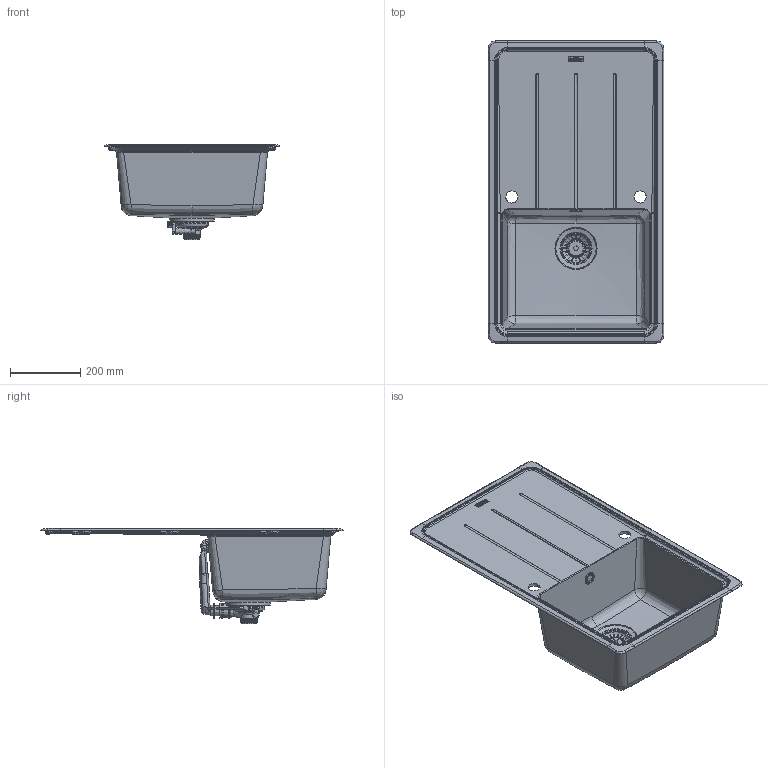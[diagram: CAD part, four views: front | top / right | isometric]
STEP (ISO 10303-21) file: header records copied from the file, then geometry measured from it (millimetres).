
FILE_DESCRIPTION(/* description */ (''),/* implementation_level */ '2;1');
FILE_NAME(/* name */ '3D001_Sinks_Basis_BFG-611-86',/* time_stamp */ '2024-06-26T15:28:29+02:00',/* author */ (''),/* organization */ (''),/* preprocessor_version */ 'ST-DEVELOPER v19.2',/* originating_system */ 'Rhino 8.7',/* authorisation */ '');
FILE_SCHEMA (('CONFIG_CONTROL_DESIGN'));
Products named in the file (3): Document; 20127510_tpm_000; Blocco 03
Bounding box: 500 x 860 x 270.5 mm (x, y, z)
Volume: 5200416.4 mm3; surface area: 1435569.5 mm2
Topology: 8 solids, 12 shells, 2617 faces, 6934 edges, 4384 vertices
Faces by surface type: plane 1389, bspline 768, cylinder 460
Full cylindrical faces by diameter (mm): 5 x3, 6 x2, 7.5 x3, 8 x1, 14 x2, 23.8 x1, 24 x1, 27.5 x1, 30 x3, 31 x1, 35 x2, 36 x2, 39 x1, 39.5 x1, 42 x3, 45 x1, 48 x1, 83.403 x1, 84 x1, 126 x1
Entity records: 140139 total; most frequent: CARTESIAN_POINT 84964, ORIENTED_EDGE 13739, EDGE_CURVE 6884, DIRECTION 6605, VERTEX_POINT 4385, AXIS2_PLACEMENT_3D 4227, B_SPLINE_CURVE_WITH_KNOTS 4190, EDGE_LOOP 2752
